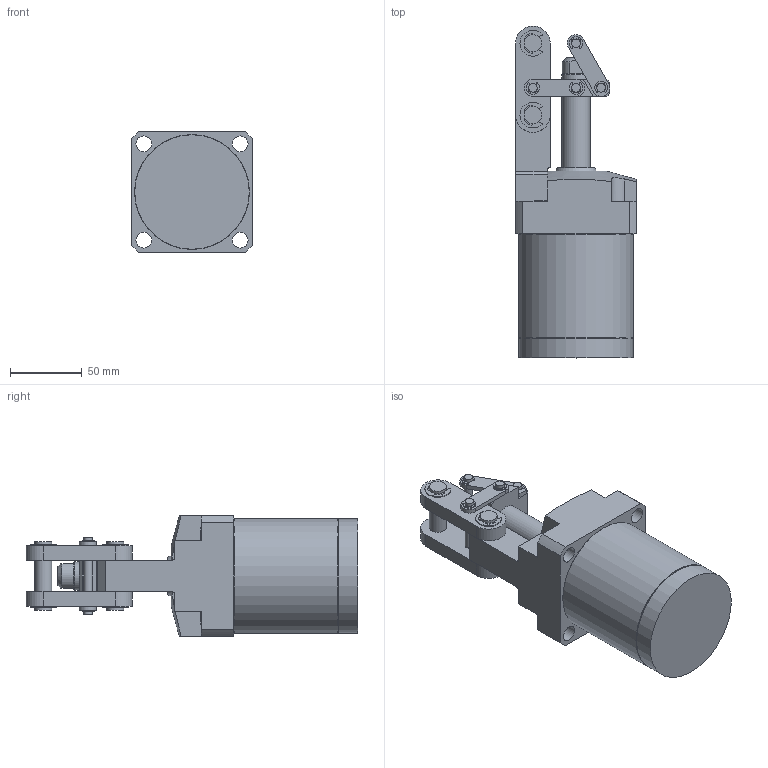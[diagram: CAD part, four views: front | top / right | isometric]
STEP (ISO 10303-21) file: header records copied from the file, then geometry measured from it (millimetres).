
FILE_DESCRIPTION( ( '' ), '1' );
FILE_NAME( 'W:/Catalogue/JLF5H/JLF5H52-50K/JLF5H52-50K.stp', '2008-05-26T02:47:05', ( '機械事業部産業機器グループ' ), ( '豊和工業株式会社' ), 'XStep 1.0', ' ', ' ' );
FILE_SCHEMA( ( 'CONFIG_CONTROL_DESIGN' ) );
Length unit declared in the file: millimetre
Products named in the file (6): Assem1; 1; 2; 3; 4; 5
Bounding box: 84 x 231 x 84 mm (x, y, z)
Volume: 1373941.7 mm3; surface area: 233490.8 mm2
Topology: 10 solids, 14 shells, 854 faces, 2216 edges, 1474 vertices
Faces by surface type: plane 448, cylinder 378, cone 26, torus 2
Full cylindrical faces by diameter (mm): 2 x2, 4 x16, 6 x32, 6.8 x2, 9 x8, 11 x12, 12 x14, 20 x6, 22 x2, 27 x2, 32 x4, 52 x4, 79 x4, 79.7 x2, 80 x2
Entity records: 12994 total; most frequent: DIRECTION 2300, CARTESIAN_POINT 2287, ORIENTED_EDGE 2008, EDGE_CURVE 1004, AXIS2_PLACEMENT_3D 882, VERTEX_POINT 705, EDGE_LOOP 564, LINE 536
